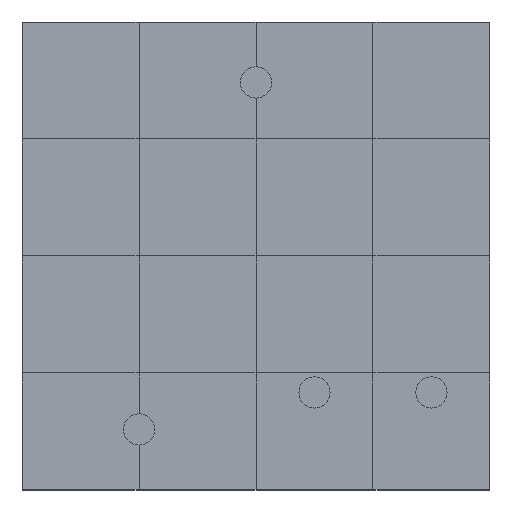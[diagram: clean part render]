
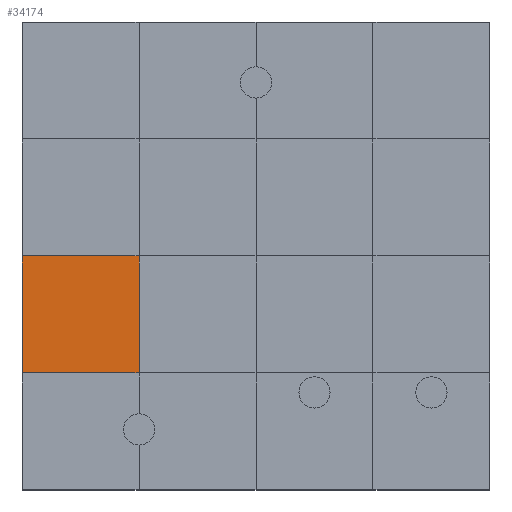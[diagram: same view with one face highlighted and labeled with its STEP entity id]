
A CAD part, top view. The second image highlights one B-rep face of the part: STEP entity #34174.
In plain terms, the highlighted planar face has unit normal (0, 0, 1).
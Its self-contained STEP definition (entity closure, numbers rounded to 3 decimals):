
#33724 = VERTEX_POINT('',#33725);
#33725 = CARTESIAN_POINT('',(0.,3.,1.5));
#33739 = PLANE('',#33740);
#33740 = AXIS2_PLACEMENT_3D('',#33741,#33742,#33743);
#33741 = CARTESIAN_POINT('',(0.,3.,0.));
#33742 = DIRECTION('',(1.,0.,-0.));
#33743 = DIRECTION('',(0.,0.,1.));
#33765 = PLANE('',#33766);
#33766 = AXIS2_PLACEMENT_3D('',#33767,#33768,#33769);
#33767 = CARTESIAN_POINT('',(0.,0.,1.5));
#33768 = DIRECTION('',(0.,0.,1.));
#33769 = DIRECTION('',(1.,0.,-0.));
#33916 = VERTEX_POINT('',#33917);
#33917 = CARTESIAN_POINT('',(3.,3.,1.5));
#33938 = EDGE_CURVE('',#33724,#33916,#33939,.T.);
#33939 = SURFACE_CURVE('',#33940,(#33944,#33951),.PCURVE_S1.);
#33940 = LINE('',#33941,#33942);
#33941 = CARTESIAN_POINT('',(0.,3.,1.5));
#33942 = VECTOR('',#33943,1.);
#33943 = DIRECTION('',(1.,0.,-0.));
#33944 = PCURVE('',#33765,#33945);
#33945 = DEFINITIONAL_REPRESENTATION('',(#33946),#33950);
#33946 = LINE('',#33947,#33948);
#33947 = CARTESIAN_POINT('',(0.,3.));
#33948 = VECTOR('',#33949,1.);
#33949 = DIRECTION('',(1.,0.));
#33950 = ( GEOMETRIC_REPRESENTATION_CONTEXT(2) 
PARAMETRIC_REPRESENTATION_CONTEXT() REPRESENTATION_CONTEXT('2D SPACE',''
  ) );
#33951 = PCURVE('',#33952,#33957);
#33952 = PLANE('',#33953);
#33953 = AXIS2_PLACEMENT_3D('',#33954,#33955,#33956);
#33954 = CARTESIAN_POINT('',(0.,3.,1.5));
#33955 = DIRECTION('',(0.,0.,1.));
#33956 = DIRECTION('',(1.,0.,-0.));
#33957 = DEFINITIONAL_REPRESENTATION('',(#33958),#33962);
#33958 = LINE('',#33959,#33960);
#33959 = CARTESIAN_POINT('',(0.,0.));
#33960 = VECTOR('',#33961,1.);
#33961 = DIRECTION('',(1.,0.));
#33962 = ( GEOMETRIC_REPRESENTATION_CONTEXT(2) 
PARAMETRIC_REPRESENTATION_CONTEXT() REPRESENTATION_CONTEXT('2D SPACE',''
  ) );
#33997 = VERTEX_POINT('',#33998);
#33998 = CARTESIAN_POINT('',(0.,6.,1.5));
#34024 = EDGE_CURVE('',#33724,#33997,#34025,.T.);
#34025 = SURFACE_CURVE('',#34026,(#34030,#34037),.PCURVE_S1.);
#34026 = LINE('',#34027,#34028);
#34027 = CARTESIAN_POINT('',(0.,3.,1.5));
#34028 = VECTOR('',#34029,1.);
#34029 = DIRECTION('',(-0.,1.,0.));
#34030 = PCURVE('',#33739,#34031);
#34031 = DEFINITIONAL_REPRESENTATION('',(#34032),#34036);
#34032 = LINE('',#34033,#34034);
#34033 = CARTESIAN_POINT('',(1.5,0.));
#34034 = VECTOR('',#34035,1.);
#34035 = DIRECTION('',(0.,-1.));
#34036 = ( GEOMETRIC_REPRESENTATION_CONTEXT(2) 
PARAMETRIC_REPRESENTATION_CONTEXT() REPRESENTATION_CONTEXT('2D SPACE',''
  ) );
#34037 = PCURVE('',#33952,#34038);
#34038 = DEFINITIONAL_REPRESENTATION('',(#34039),#34043);
#34039 = LINE('',#34040,#34041);
#34040 = CARTESIAN_POINT('',(0.,0.));
#34041 = VECTOR('',#34042,1.);
#34042 = DIRECTION('',(0.,1.));
#34043 = ( GEOMETRIC_REPRESENTATION_CONTEXT(2) 
PARAMETRIC_REPRESENTATION_CONTEXT() REPRESENTATION_CONTEXT('2D SPACE',''
  ) );
#34174 = ADVANCED_FACE('',(#34175),#33952,.T.);
#34175 = FACE_BOUND('',#34176,.T.);
#34176 = EDGE_LOOP('',(#34177,#34178,#34179,#34207));
#34177 = ORIENTED_EDGE('',*,*,#34024,.F.);
#34178 = ORIENTED_EDGE('',*,*,#33938,.T.);
#34179 = ORIENTED_EDGE('',*,*,#34180,.T.);
#34180 = EDGE_CURVE('',#33916,#34181,#34183,.T.);
#34181 = VERTEX_POINT('',#34182);
#34182 = CARTESIAN_POINT('',(3.,6.,1.5));
#34183 = SURFACE_CURVE('',#34184,(#34188,#34195),.PCURVE_S1.);
#34184 = LINE('',#34185,#34186);
#34185 = CARTESIAN_POINT('',(3.,3.,1.5));
#34186 = VECTOR('',#34187,1.);
#34187 = DIRECTION('',(-0.,1.,0.));
#34188 = PCURVE('',#33952,#34189);
#34189 = DEFINITIONAL_REPRESENTATION('',(#34190),#34194);
#34190 = LINE('',#34191,#34192);
#34191 = CARTESIAN_POINT('',(3.,0.));
#34192 = VECTOR('',#34193,1.);
#34193 = DIRECTION('',(0.,1.));
#34194 = ( GEOMETRIC_REPRESENTATION_CONTEXT(2) 
PARAMETRIC_REPRESENTATION_CONTEXT() REPRESENTATION_CONTEXT('2D SPACE',''
  ) );
#34195 = PCURVE('',#34196,#34201);
#34196 = PLANE('',#34197);
#34197 = AXIS2_PLACEMENT_3D('',#34198,#34199,#34200);
#34198 = CARTESIAN_POINT('',(3.,3.,1.5));
#34199 = DIRECTION('',(0.,0.,1.));
#34200 = DIRECTION('',(1.,0.,-0.));
#34201 = DEFINITIONAL_REPRESENTATION('',(#34202),#34206);
#34202 = LINE('',#34203,#34204);
#34203 = CARTESIAN_POINT('',(0.,0.));
#34204 = VECTOR('',#34205,1.);
#34205 = DIRECTION('',(0.,1.));
#34206 = ( GEOMETRIC_REPRESENTATION_CONTEXT(2) 
PARAMETRIC_REPRESENTATION_CONTEXT() REPRESENTATION_CONTEXT('2D SPACE',''
  ) );
#34207 = ORIENTED_EDGE('',*,*,#34208,.F.);
#34208 = EDGE_CURVE('',#33997,#34181,#34209,.T.);
#34209 = SURFACE_CURVE('',#34210,(#34214,#34221),.PCURVE_S1.);
#34210 = LINE('',#34211,#34212);
#34211 = CARTESIAN_POINT('',(0.,6.,1.5));
#34212 = VECTOR('',#34213,1.);
#34213 = DIRECTION('',(1.,0.,-0.));
#34214 = PCURVE('',#33952,#34215);
#34215 = DEFINITIONAL_REPRESENTATION('',(#34216),#34220);
#34216 = LINE('',#34217,#34218);
#34217 = CARTESIAN_POINT('',(0.,3.));
#34218 = VECTOR('',#34219,1.);
#34219 = DIRECTION('',(1.,0.));
#34220 = ( GEOMETRIC_REPRESENTATION_CONTEXT(2) 
PARAMETRIC_REPRESENTATION_CONTEXT() REPRESENTATION_CONTEXT('2D SPACE',''
  ) );
#34221 = PCURVE('',#34222,#34227);
#34222 = PLANE('',#34223);
#34223 = AXIS2_PLACEMENT_3D('',#34224,#34225,#34226);
#34224 = CARTESIAN_POINT('',(0.,6.,1.5));
#34225 = DIRECTION('',(0.,0.,1.));
#34226 = DIRECTION('',(1.,0.,-0.));
#34227 = DEFINITIONAL_REPRESENTATION('',(#34228),#34232);
#34228 = LINE('',#34229,#34230);
#34229 = CARTESIAN_POINT('',(0.,0.));
#34230 = VECTOR('',#34231,1.);
#34231 = DIRECTION('',(1.,0.));
#34232 = ( GEOMETRIC_REPRESENTATION_CONTEXT(2) 
PARAMETRIC_REPRESENTATION_CONTEXT() REPRESENTATION_CONTEXT('2D SPACE',''
  ) );
